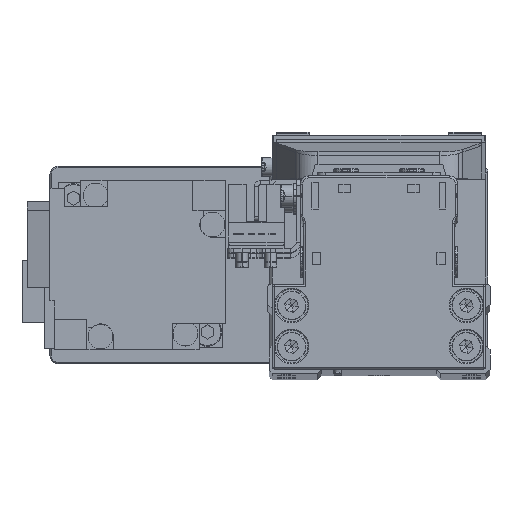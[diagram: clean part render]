
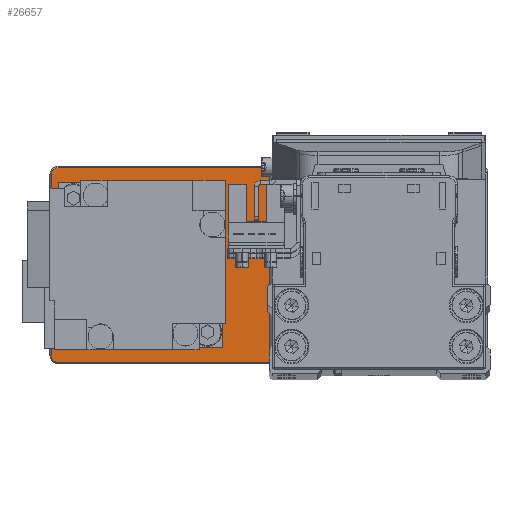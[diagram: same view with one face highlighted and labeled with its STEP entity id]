
A CAD part, top view. The second image highlights one B-rep face of the part: STEP entity #26657.
In plain terms, the highlighted planar face has unit normal (0, 0, 1).
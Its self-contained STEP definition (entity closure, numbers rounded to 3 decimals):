
#141 = CARTESIAN_POINT ( 'NONE',  ( -50., 23.7, 5. ) ) ;
#376 = DIRECTION ( 'NONE',  ( 1., 0., 0. ) ) ;
#910 = CARTESIAN_POINT ( 'NONE',  ( 17.2, 0., 5. ) ) ;
#972 = DIRECTION ( 'NONE',  ( 0., 0., 1. ) ) ;
#1018 = CIRCLE ( 'NONE', #24008, 1.7 ) ;
#2099 = ORIENTED_EDGE ( 'NONE', *, *, #11898, .T. ) ;
#2149 = DIRECTION ( 'NONE',  ( 0., 0., 1. ) ) ;
#2366 = CARTESIAN_POINT ( 'NONE',  ( 30., 0., 5. ) ) ;
#2729 = CARTESIAN_POINT ( 'NONE',  ( -51.7, 22., 5. ) ) ;
#3005 = ORIENTED_EDGE ( 'NONE', *, *, #24246, .T. ) ;
#3072 = CARTESIAN_POINT ( 'NONE',  ( -51.7, -22., 5. ) ) ;
#4038 = FACE_OUTER_BOUND ( 'NONE', #16855, .T. ) ;
#4412 = AXIS2_PLACEMENT_3D ( 'NONE', #14947, #27473, #39972 ) ;
#5282 = CARTESIAN_POINT ( 'NONE',  ( 51.7, 22., 5. ) ) ;
#6459 = CARTESIAN_POINT ( 'NONE',  ( 50., 23.7, 5. ) ) ;
#7042 = EDGE_CURVE ( 'NONE', #24376, #16206, #28329, .T. ) ;
#7686 = CARTESIAN_POINT ( 'NONE',  ( 51.7, -22., 5. ) ) ;
#7812 = CARTESIAN_POINT ( 'NONE',  ( 50., -23.7, 5. ) ) ;
#8057 = DIRECTION ( 'NONE',  ( 0., 0., -1. ) ) ;
#9676 = DIRECTION ( 'NONE',  ( 0., 0., -1. ) ) ;
#9858 = CARTESIAN_POINT ( 'NONE',  ( 51.7, 22., 5. ) ) ;
#9943 = DIRECTION ( 'NONE',  ( 1., 0., 0. ) ) ;
#10163 = CIRCLE ( 'NONE', #33124, 10.3 ) ;
#10366 = DIRECTION ( 'NONE',  ( 0., 0., 1. ) ) ;
#11154 = ORIENTED_EDGE ( 'NONE', *, *, #33782, .T. ) ;
#11214 = AXIS2_PLACEMENT_3D ( 'NONE', #2366, #14916, #27440 ) ;
#11444 = VERTEX_POINT ( 'NONE', #2729 ) ;
#11782 = DIRECTION ( 'NONE',  ( 0., 0., 1. ) ) ;
#11898 = EDGE_CURVE ( 'NONE', #23656, #24376, #30134, .T. ) ;
#12225 = ORIENTED_EDGE ( 'NONE', *, *, #32695, .T. ) ;
#12244 = EDGE_CURVE ( 'NONE', #16244, #29881, #22173, .T. ) ;
#12409 = AXIS2_PLACEMENT_3D ( 'NONE', #16038, #28570, #376 ) ;
#12511 = EDGE_LOOP ( 'NONE', ( #32313, #18310 ) ) ;
#12517 = LINE ( 'NONE', #25069, #19792 ) ;
#12651 = CIRCLE ( 'NONE', #35608, 1.7 ) ;
#12725 = DIRECTION ( 'NONE',  ( -1., 0., 0. ) ) ;
#13539 = DIRECTION ( 'NONE',  ( 1., 0., 0. ) ) ;
#14726 = DIRECTION ( 'NONE',  ( 1., 0., 0. ) ) ;
#14916 = DIRECTION ( 'NONE',  ( 0., 0., -1. ) ) ;
#14947 = CARTESIAN_POINT ( 'NONE',  ( -28., 0., 5. ) ) ;
#15123 = VERTEX_POINT ( 'NONE', #15931 ) ;
#15297 = CIRCLE ( 'NONE', #20533, 12.8 ) ;
#15931 = CARTESIAN_POINT ( 'NONE',  ( -50., -23.7, 5. ) ) ;
#16038 = CARTESIAN_POINT ( 'NONE',  ( 50., 22., 5. ) ) ;
#16206 = VERTEX_POINT ( 'NONE', #20085 ) ;
#16244 = VERTEX_POINT ( 'NONE', #26651 ) ;
#16621 = PLANE ( 'NONE',  #17961 ) ;
#16855 = EDGE_LOOP ( 'NONE', ( #35378, #36510, #32104, #2099, #29735, #11154, #12225, #27485 ) ) ;
#17253 = EDGE_CURVE ( 'NONE', #26072, #23656, #37998, .T. ) ;
#17961 = AXIS2_PLACEMENT_3D ( 'NONE', #29159, #972, #13539 ) ;
#18310 = ORIENTED_EDGE ( 'NONE', *, *, #12244, .T. ) ;
#18323 = CARTESIAN_POINT ( 'NONE',  ( -17.7, 0., 5. ) ) ;
#19673 = FACE_BOUND ( 'NONE', #30890, .T. ) ;
#19792 = VECTOR ( 'NONE', #37593, 1000. ) ;
#20085 = CARTESIAN_POINT ( 'NONE',  ( -50., 23.7, 5. ) ) ;
#20533 = AXIS2_PLACEMENT_3D ( 'NONE', #28382, #9676, #22212 ) ;
#20609 = DIRECTION ( 'NONE',  ( 1., 0., 0. ) ) ;
#21877 = VECTOR ( 'NONE', #9943, 1000. ) ;
#22035 = VERTEX_POINT ( 'NONE', #7812 ) ;
#22173 = CIRCLE ( 'NONE', #4412, 10.3 ) ;
#22212 = DIRECTION ( 'NONE',  ( 1., 0., 0. ) ) ;
#22406 = DIRECTION ( 'NONE',  ( 0., 1., 0. ) ) ;
#22906 = DIRECTION ( 'NONE',  ( 1., 0., 0. ) ) ;
#23656 = VERTEX_POINT ( 'NONE', #5282 ) ;
#24008 = AXIS2_PLACEMENT_3D ( 'NONE', #39912, #11782, #24330 ) ;
#24246 = EDGE_CURVE ( 'NONE', #33830, #24524, #28957, .T. ) ;
#24330 = DIRECTION ( 'NONE',  ( 1., 0., 0. ) ) ;
#24376 = VERTEX_POINT ( 'NONE', #6459 ) ;
#24524 = VERTEX_POINT ( 'NONE', #910 ) ;
#25069 = CARTESIAN_POINT ( 'NONE',  ( -51.7, -22., 5. ) ) ;
#25570 = LINE ( 'NONE', #38078, #21877 ) ;
#26072 = VERTEX_POINT ( 'NONE', #7686 ) ;
#26444 = CIRCLE ( 'NONE', #31695, 1.7 ) ;
#26651 = CARTESIAN_POINT ( 'NONE',  ( -38.3, 0., 5. ) ) ;
#26657 = ADVANCED_FACE ( 'NONE', ( #19673, #32208, #4038 ), #16621, .T. ) ;
#27440 = DIRECTION ( 'NONE',  ( 1., 0., 0. ) ) ;
#27473 = DIRECTION ( 'NONE',  ( 0., 0., -1. ) ) ;
#27485 = ORIENTED_EDGE ( 'NONE', *, *, #38183, .T. ) ;
#27676 = EDGE_CURVE ( 'NONE', #29881, #16244, #10163, .T. ) ;
#27991 = ORIENTED_EDGE ( 'NONE', *, *, #40081, .T. ) ;
#28329 = LINE ( 'NONE', #141, #38842 ) ;
#28382 = CARTESIAN_POINT ( 'NONE',  ( 30., 0., 5. ) ) ;
#28570 = DIRECTION ( 'NONE',  ( 0., 0., 1. ) ) ;
#28655 = EDGE_CURVE ( 'NONE', #22035, #26072, #1018, .T. ) ;
#28957 = CIRCLE ( 'NONE', #11214, 12.8 ) ;
#29159 = CARTESIAN_POINT ( 'NONE',  ( 0., 0., 5. ) ) ;
#29735 = ORIENTED_EDGE ( 'NONE', *, *, #7042, .T. ) ;
#29881 = VERTEX_POINT ( 'NONE', #18323 ) ;
#30134 = CIRCLE ( 'NONE', #12409, 1.7 ) ;
#30305 = CARTESIAN_POINT ( 'NONE',  ( -50., 22., 5. ) ) ;
#30890 = EDGE_LOOP ( 'NONE', ( #3005, #27991 ) ) ;
#31695 = AXIS2_PLACEMENT_3D ( 'NONE', #30305, #2149, #14726 ) ;
#32104 = ORIENTED_EDGE ( 'NONE', *, *, #17253, .T. ) ;
#32208 = FACE_BOUND ( 'NONE', #12511, .T. ) ;
#32313 = ORIENTED_EDGE ( 'NONE', *, *, #27676, .T. ) ;
#32399 = VECTOR ( 'NONE', #22406, 1000. ) ;
#32695 = EDGE_CURVE ( 'NONE', #11444, #36058, #12517, .T. ) ;
#33124 = AXIS2_PLACEMENT_3D ( 'NONE', #36186, #8057, #20609 ) ;
#33782 = EDGE_CURVE ( 'NONE', #16206, #11444, #26444, .T. ) ;
#33830 = VERTEX_POINT ( 'NONE', #34003 ) ;
#33958 = EDGE_CURVE ( 'NONE', #15123, #22035, #25570, .T. ) ;
#34003 = CARTESIAN_POINT ( 'NONE',  ( 42.8, 0., 5. ) ) ;
#35378 = ORIENTED_EDGE ( 'NONE', *, *, #33958, .T. ) ;
#35608 = AXIS2_PLACEMENT_3D ( 'NONE', #38507, #10366, #22906 ) ;
#36058 = VERTEX_POINT ( 'NONE', #3072 ) ;
#36186 = CARTESIAN_POINT ( 'NONE',  ( -28., 0., 5. ) ) ;
#36510 = ORIENTED_EDGE ( 'NONE', *, *, #28655, .T. ) ;
#37593 = DIRECTION ( 'NONE',  ( 0., -1., 0. ) ) ;
#37998 = LINE ( 'NONE', #9858, #32399 ) ;
#38078 = CARTESIAN_POINT ( 'NONE',  ( 50., -23.7, 5. ) ) ;
#38183 = EDGE_CURVE ( 'NONE', #36058, #15123, #12651, .T. ) ;
#38507 = CARTESIAN_POINT ( 'NONE',  ( -50., -22., 5. ) ) ;
#38842 = VECTOR ( 'NONE', #12725, 1000. ) ;
#39912 = CARTESIAN_POINT ( 'NONE',  ( 50., -22., 5. ) ) ;
#39972 = DIRECTION ( 'NONE',  ( 1., 0., 0. ) ) ;
#40081 = EDGE_CURVE ( 'NONE', #24524, #33830, #15297, .T. ) ;
